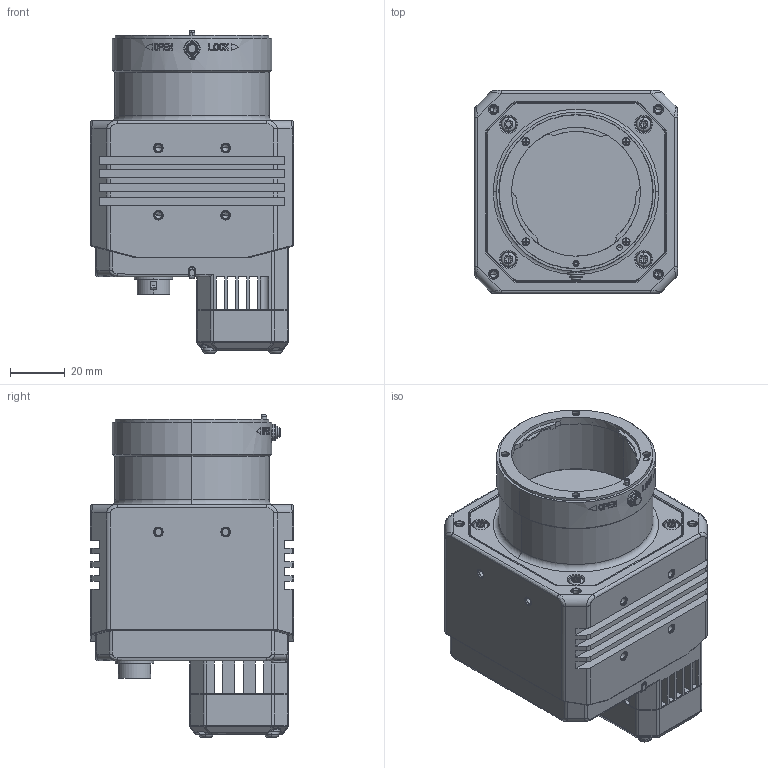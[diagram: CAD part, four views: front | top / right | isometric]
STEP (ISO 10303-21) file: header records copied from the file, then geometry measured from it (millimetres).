
FILE_DESCRIPTION((''),'2;1');
FILE_NAME('00-65MP-WZW-B_ASM-F_ASM_ASM_1_ASM','2021-01-18T16:51:50',('gengdawei'),(''),'CREO PARAMETRIC BY PTC INC, 2017260','CREO PARAMETRIC BY PTC INC, 2017260','');
FILE_SCHEMA(('CONFIG_CONTROL_DESIGN'));
Products named in the file (8): 00-65MP-WZW-B_ASM-F_ASM_ASM_1_1; 00-65MP-WZW-B_ASM-F_ASM_ASM_1_2; 00-65MP-WZW-B_ASM-F_ASM_ASM_1_3; 00-65MP-WZW-B_ASM-F_ASM_ASM_1_4; 00-65MP-WZW-B_ASM-F_ASM_ASM_1_5; 00-65MP-WZW-B_ASM-F_ASM_ASM_1_6; 00-65MP-WZW-B_ASM-F_ASM_ASM_1_7; 00-65MP-WZW-B_ASM-F_ASM_ASM_1_ASM
Assembly tree (7 placements, depth 2):
  00-65MP-WZW-B_ASM-F_ASM_ASM_1_ASM
    00-65MP-WZW-B_ASM-F_ASM_ASM_1_1
    00-65MP-WZW-B_ASM-F_ASM_ASM_1_2
    00-65MP-WZW-B_ASM-F_ASM_ASM_1_3
    00-65MP-WZW-B_ASM-F_ASM_ASM_1_4
    00-65MP-WZW-B_ASM-F_ASM_ASM_1_5
    00-65MP-WZW-B_ASM-F_ASM_ASM_1_6
    00-65MP-WZW-B_ASM-F_ASM_ASM_1_7
Bounding box: 74 x 74 x 117.49 mm (x, y, z)
Volume: 300834.8 mm3; surface area: 109258.9 mm2
Topology: 7 solids, 74 shells, 3788 faces, 10448 edges, 6789 vertices
Faces by surface type: plane 1838, cylinder 1154, bspline 280, cone 234, extrusion 178, torus 96, revolution 4, sphere 4
Entity records: 154316 total; most frequent: CARTESIAN_POINT 58885, ORIENTED_EDGE 20512, DIRECTION 18872, EDGE_CURVE 10378, VERTEX_POINT 6789, AXIS2_PLACEMENT_3D 6446, VECTOR 5976, LINE 5798
